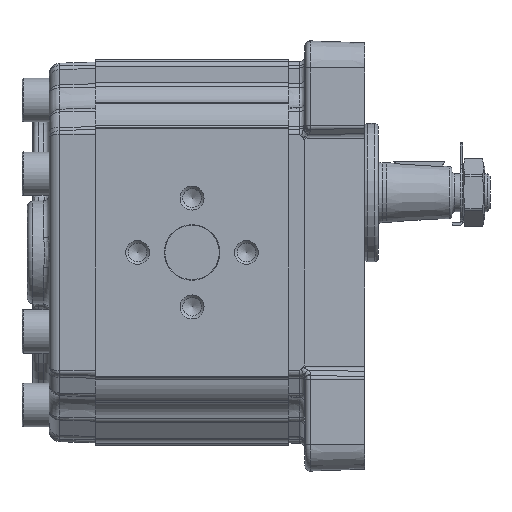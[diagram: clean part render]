
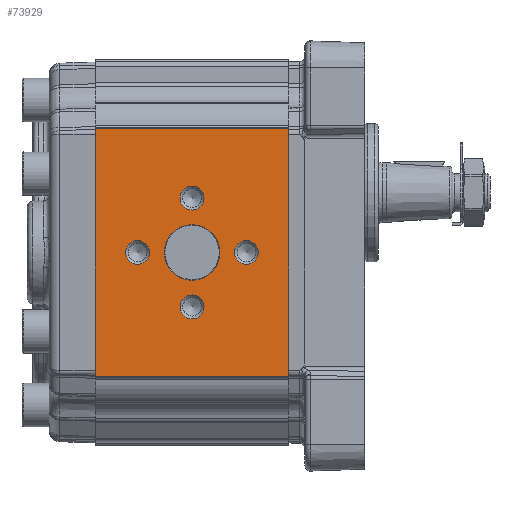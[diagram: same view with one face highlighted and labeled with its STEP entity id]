
A CAD part, left-side view. The second image highlights one B-rep face of the part: STEP entity #73929.
In plain terms, the highlighted planar face has unit normal (-1, 0, 0) as drawn and (1, 0, 0) by its records, which use the part's own axes.
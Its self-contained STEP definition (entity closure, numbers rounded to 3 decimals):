
#2265=LINE('',#112937,#5975);
#2276=LINE('',#113021,#5986);
#2322=LINE('',#113187,#6032);
#2323=LINE('',#113188,#6033);
#5975=VECTOR('',#89000,1000.);
#5986=VECTOR('',#89075,1000.);
#6032=VECTOR('',#89253,1000.);
#6033=VECTOR('',#89254,1000.);
#8312=PLANE('',#78377);
#19851=ORIENTED_EDGE('',*,*,#32949,.T.);
#19852=ORIENTED_EDGE('',*,*,#32950,.T.);
#19853=ORIENTED_EDGE('',*,*,#32951,.T.);
#19854=ORIENTED_EDGE('',*,*,#32952,.T.);
#19855=ORIENTED_EDGE('',*,*,#32953,.T.);
#19856=ORIENTED_EDGE('',*,*,#32824,.F.);
#19857=ORIENTED_EDGE('',*,*,#32954,.T.);
#19858=ORIENTED_EDGE('',*,*,#32866,.F.);
#19859=ORIENTED_EDGE('',*,*,#32955,.T.);
#32824=EDGE_CURVE('',#40001,#40002,#2265,.T.);
#32866=EDGE_CURVE('',#40043,#40044,#2276,.T.);
#32949=EDGE_CURVE('',#40092,#40092,#44485,.F.);
#32950=EDGE_CURVE('',#40093,#40093,#44486,.F.);
#32951=EDGE_CURVE('',#40094,#40094,#44487,.F.);
#32952=EDGE_CURVE('',#40095,#40095,#44488,.F.);
#32953=EDGE_CURVE('',#40096,#40096,#44489,.F.);
#32954=EDGE_CURVE('',#40001,#40044,#2322,.F.);
#32955=EDGE_CURVE('',#40043,#40002,#2323,.F.);
#40001=VERTEX_POINT('',#112936);
#40002=VERTEX_POINT('',#112938);
#40043=VERTEX_POINT('',#113022);
#40044=VERTEX_POINT('',#113023);
#40092=VERTEX_POINT('',#113178);
#40093=VERTEX_POINT('',#113180);
#40094=VERTEX_POINT('',#113182);
#40095=VERTEX_POINT('',#113184);
#40096=VERTEX_POINT('',#113186);
#44485=CIRCLE('',#78378,4.4);
#44486=CIRCLE('',#78379,4.4);
#44487=CIRCLE('',#78380,4.4);
#44488=CIRCLE('',#78381,4.4);
#44489=CIRCLE('',#78382,10.2);
#47517=EDGE_LOOP('',(#19851));
#47518=EDGE_LOOP('',(#19852));
#47519=EDGE_LOOP('',(#19853));
#47520=EDGE_LOOP('',(#19854));
#47521=EDGE_LOOP('',(#19855));
#47522=EDGE_LOOP('',(#19856,#19857,#19858,#19859));
#50534=FACE_BOUND('',#47517,.T.);
#50535=FACE_BOUND('',#47518,.T.);
#50536=FACE_BOUND('',#47519,.T.);
#50537=FACE_BOUND('',#47520,.T.);
#50538=FACE_BOUND('',#47521,.T.);
#50539=FACE_BOUND('',#47522,.T.);
#73929=ADVANCED_FACE('',(#50534,#50535,#50536,#50537,#50538,#50539),#8312,
 .T.);
#78377=AXIS2_PLACEMENT_3D('',#113176,#89241,#89242);
#78378=AXIS2_PLACEMENT_3D('',#113177,#89243,#89244);
#78379=AXIS2_PLACEMENT_3D('',#113179,#89245,#89246);
#78380=AXIS2_PLACEMENT_3D('',#113181,#89247,#89248);
#78381=AXIS2_PLACEMENT_3D('',#113183,#89249,#89250);
#78382=AXIS2_PLACEMENT_3D('',#113185,#89251,#89252);
#89000=DIRECTION('',(0.,0.,-1.));
#89075=DIRECTION('',(0.,0.,1.));
#89241=DIRECTION('',(1.,0.,0.));
#89242=DIRECTION('',(0.,0.,1.));
#89243=DIRECTION('',(1.,0.,0.));
#89244=DIRECTION('',(0.,0.,1.));
#89245=DIRECTION('',(1.,0.,0.));
#89246=DIRECTION('',(0.,0.,1.));
#89247=DIRECTION('',(1.,0.,0.));
#89248=DIRECTION('',(0.,0.,1.));
#89249=DIRECTION('',(1.,0.,0.));
#89250=DIRECTION('',(0.,0.,1.));
#89251=DIRECTION('',(1.,0.,0.));
#89252=DIRECTION('',(0.,0.,1.));
#89253=DIRECTION('',(0.,1.,0.));
#89254=DIRECTION('',(0.,-1.,0.));
#112936=CARTESIAN_POINT('',(57.5,71.,45.5));
#112937=CARTESIAN_POINT('',(57.5,71.,91.388));
#112938=CARTESIAN_POINT('',(57.5,71.,-45.5));
#113021=CARTESIAN_POINT('',(57.5,0.,-44.978));
#113022=CARTESIAN_POINT('',(57.5,0.,-45.5));
#113023=CARTESIAN_POINT('',(57.5,0.,45.5));
#113176=CARTESIAN_POINT('',(57.5,-152.112,91.388));
#113177=CARTESIAN_POINT('',(57.5,35.5,20.));
#113178=CARTESIAN_POINT('',(57.5,35.5,24.4));
#113179=CARTESIAN_POINT('',(57.5,15.5,0.));
#113180=CARTESIAN_POINT('',(57.5,15.5,4.4));
#113181=CARTESIAN_POINT('',(57.5,35.5,-20.));
#113182=CARTESIAN_POINT('',(57.5,35.5,-15.6));
#113183=CARTESIAN_POINT('',(57.5,55.5,0.));
#113184=CARTESIAN_POINT('',(57.5,55.5,4.4));
#113185=CARTESIAN_POINT('',(57.5,35.5,0.));
#113186=CARTESIAN_POINT('',(57.5,35.5,10.2));
#113187=CARTESIAN_POINT('',(57.5,-152.112,45.5));
#113188=CARTESIAN_POINT('',(57.5,-152.112,-45.5));
